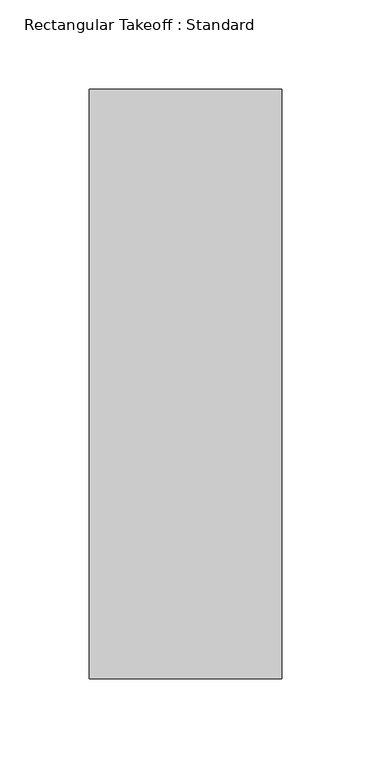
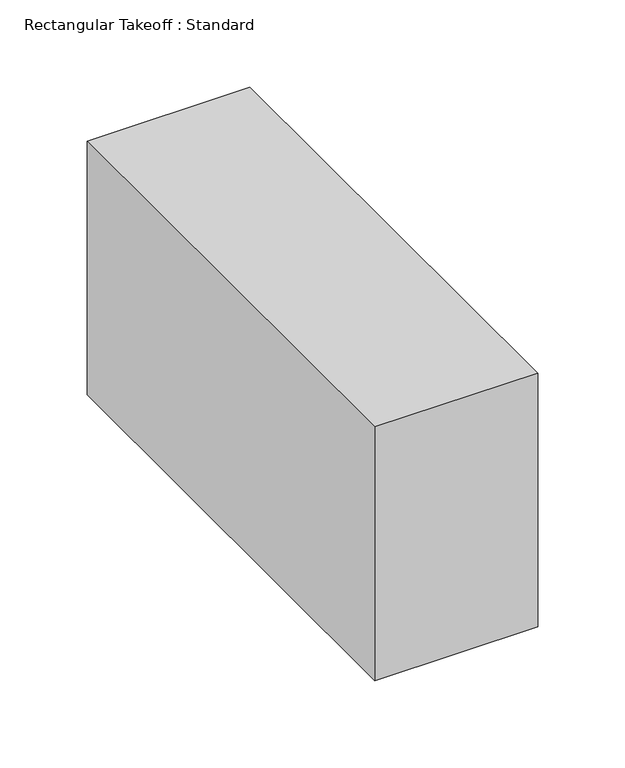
"""IFC4 building model written with IfcOpenShell, lengths in millimetres: duct fitting geometry, Rectangular Takeoff : Standard."""

from ifc_helpers import new_model, si_unit, frame, origin, place, context, project, spatial, polyline, outline, extrude, source, transform, mapped, element, save


def rectangular_takeoff_standard_5ed12392(model_context):
    return source(origin(), model_context, "Body", "SweptSolid", [
        extrude(outline(polyline([(-6.096, -165.1), (-6.096, 165.1), (101.6, 165.1), (101.6, -165.1), (-6.096, -165.1)])), frame((0.0, 0.0, -88.9), z_axis=(0.0, 0.0, 1.0), x_axis=(1.0, 0.0, 0.0)), (0.0, 0.0, 1.0), 177.8),
    ])


if __name__ == "__main__":
    model = new_model("IFC4")
    model_context = context("Model", 3, world=origin())
    ifc_project = project(units=[si_unit("LENGTHUNIT", "METRE", prefix="MILLI")], contexts=[model_context])
    site = spatial("IfcSite", under=ifc_project)
    building = spatial("IfcBuilding", under=site)
    placement = place(None, origin())
    rectangular_takeoff_standard_shape = rectangular_takeoff_standard_5ed12392(model_context)
    element("IfcDuctFitting", 1, ObjectType="Rectangular Takeoff : Standard", at=placement, inside=building, context=model_context, shape_type="MappedRepresentation", body=[
        mapped(rectangular_takeoff_standard_shape, transform((0.0, 0.0, 0.0), x_axis=(1.0, 0.0, 0.0), y_axis=(0.0, 1.0, 0.0), z_axis=(0.0, 0.0, 1.0))),
    ])
    save(model, "model.ifc")
